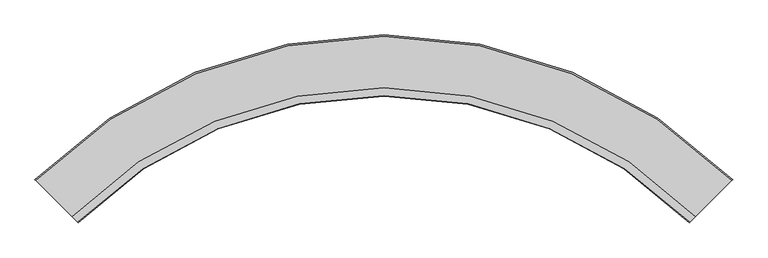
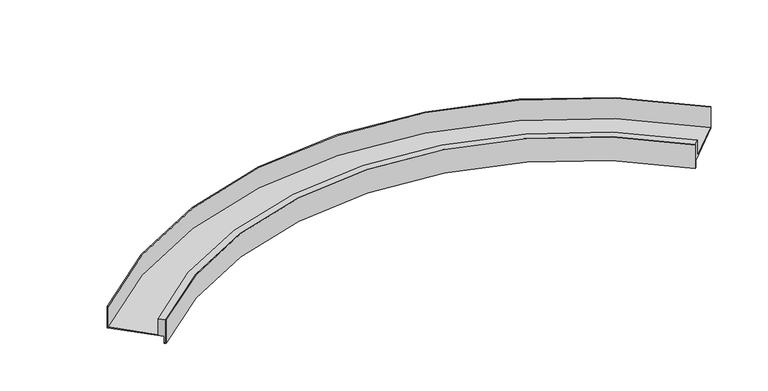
"""IFC4 building model written with IfcOpenShell, lengths in millimetres: light fixture geometry, Lighting-Cove-Lumenwerx-Evoq-Ramp-FC-Arc_Segment-Ceiling : EVOQCURPAT-FC-ARC."""

from ifc_helpers import new_model, si_unit, frame, origin, place, context, project, spatial, polyline, circle_curve, source, transform, mapped, element, save
from ifc_brep_helpers import plane_surface, cylinder_surface, revolved_surface, advanced_brep


def light_fixture_e91f5ca2(model_context):
    return source(origin(), model_context, "Body", "AdvancedBrep", [
        advanced_brep(
        [(-604.4834901, -42.0949506, -15.08125), (-606.7304899, -39.8479509, -15.08125), (-606.7304899, -39.8479509, -15.875), (-603.9222241, -42.6562166, -15.875), (-603.9222241, -42.6562166, 40.48125), (-604.4834901, -42.0949506, 40.48125), (604.4834901, -42.0949506, -15.08125), (604.4834901, -42.0949506, 40.48125), (603.9222241, -42.6562166, 40.48125), (603.9222241, -42.6562166, -15.875), (606.7304899, -39.8479509, -15.875), (606.7304899, -39.8479509, -15.08125)],
        [
            (0, 1),
            (1, 2),
            (2, 3),
            (3, 4),
            (4, 5),
            (5, 0),
            (6, 7),
            (7, 8),
            (8, 9),
            (9, 10),
            (10, 11),
            (11, 6),
            (8, 4, circle_curve(frame((0.0, -646.5784407, 40.48125), z_axis=(0.0, 0.0, 1.0), x_axis=(-0.7071067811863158, 0.7071067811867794, 0.0)), 854.075)),
            (3, 9, circle_curve(frame((0.0, -646.5784407, -15.875), z_axis=(0.0, 0.0, -1.0), x_axis=(-0.7071067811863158, 0.7071067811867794, 0.0)), 854.075)),
            (7, 5, circle_curve(frame((0.0, -646.5784407, 40.48125), z_axis=(0.0, 0.0, 1.0), x_axis=(-0.7071067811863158, 0.7071067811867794, 0.0)), 854.86875)),
            (6, 0, circle_curve(frame((0.0, -646.5784407, -15.08125), z_axis=(0.0, 0.0, 1.0), x_axis=(-0.7071067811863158, 0.7071067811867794, 0.0)), 854.86875)),
            (11, 1, circle_curve(frame((0.0, -646.5784407, -15.08125), z_axis=(0.0, 0.0, 1.0), x_axis=(-0.7071067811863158, 0.7071067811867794, 0.0)), 858.0464875)),
            (10, 2, circle_curve(frame((0.0, -646.5784407, -15.875), z_axis=(0.0, 0.0, 1.0), x_axis=(-0.7071067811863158, 0.7071067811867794, 0.0)), 858.0464875)),
        ],
        [
            plane_surface(frame((-646.5784407, 0.0, 0.0), z_axis=(-0.7071067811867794, -0.7071067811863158, 0.0), x_axis=(0.0, 0.0, 1.0))),
            plane_surface(frame((646.5784407, 0.0, 0.0), z_axis=(0.7071067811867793, -0.7071067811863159, 0.0), x_axis=(0.0, 0.0, 1.0))),
            revolved_surface(polyline([(-603.9222241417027, -42.6562165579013, -15.875), (-603.9222241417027, -42.6562165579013, 40.48125)]), (0.0, -646.5784407, 0.0), (0.0, 0.0, -1.0)),
            plane_surface(frame((0.0, -646.5784407, 40.48125), z_axis=(0.0, 0.0, 1.0), x_axis=(-0.7071067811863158, 0.7071067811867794, 0.0))),
            cylinder_surface(frame((0.0, -646.5784407, 0.0), z_axis=(0.0, 0.0, -1.0), x_axis=(-0.7071067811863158, 0.7071067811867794, 0.0)), 854.86875),
            plane_surface(frame((0.0, -646.5784407, -15.08125), z_axis=(0.0, 0.0, 1.0), x_axis=(-0.7071067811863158, 0.7071067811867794, 0.0))),
            cylinder_surface(frame((0.0, -646.5784407, 0.0), z_axis=(0.0, 0.0, -1.0), x_axis=(-0.7071067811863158, 0.7071067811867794, 0.0)), 858.0464875),
            plane_surface(frame((0.0, -646.5784407, -15.875), z_axis=(0.0, 0.0, -1.0), x_axis=(-0.7071067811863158, 0.7071067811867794, 0.0))),
        ],
        [
            (0, [[1, 2, 3, 4, 5, 6]]),
            (1, [[7, 8, 9, 10, 11, 12]]),
            (2, [[13, -4, 14, -9]]),
            (3, [[15, -5, -13, -8]]),
            (4, [[16, -6, -15, -7]]),
            (5, [[17, -1, -16, -12]]),
            (6, [[18, -2, -17, -11]]),
            (7, [[-14, -3, -18, -10]]),
        ],
    ),
        advanced_brep(
        [(-604.4834901, -42.0949506, 40.48125), (-615.7088103, -30.8696304, 40.48125), (-615.7088103, -30.8696304, 2.38125), (-687.5508593, 40.9724186, 2.38125), (-687.5508593, 40.9724186, 51.59375), (-689.2346573, 42.6562166, 51.59375), (-689.2346573, 42.6562166, 0.0), (-606.7285542, -39.8498865, 0.0), (-606.7285542, -39.8498865, -15.08125), (-604.4834901, -42.0949506, -15.08125), (604.4834901, -42.0949506, 40.48125), (604.4834901, -42.0949506, -15.08125), (606.7285542, -39.8498865, -15.08125), (606.7285542, -39.8498865, 0.0), (689.2346573, 42.6562166, 0.0), (689.2346573, 42.6562166, 51.59375), (687.5508593, 40.9724186, 51.59375), (687.5508593, 40.9724186, 2.38125), (615.7088103, -30.8696304, 2.38125), (615.7088103, -30.8696304, 40.48125)],
        [
            (0, 1),
            (1, 2),
            (2, 3),
            (3, 4),
            (4, 5),
            (5, 6),
            (6, 7),
            (7, 8),
            (8, 9),
            (9, 0),
            (10, 11),
            (11, 12),
            (12, 13),
            (13, 14),
            (14, 15),
            (15, 16),
            (16, 17),
            (17, 18),
            (18, 19),
            (19, 10),
            (10, 0, circle_curve(frame((0.0, -646.5784407, 40.48125), z_axis=(0.0, 0.0, 1.0), x_axis=(-0.7071067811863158, 0.7071067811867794, 0.0)), 854.86875)),
            (9, 11, circle_curve(frame((0.0, -646.5784407, -15.08125), z_axis=(0.0, 0.0, -1.0), x_axis=(-0.7071067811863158, 0.7071067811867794, 0.0)), 854.86875)),
            (19, 1, circle_curve(frame((0.0, -646.5784407, 40.48125), z_axis=(0.0, 0.0, 1.0), x_axis=(-0.7071067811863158, 0.7071067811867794, 0.0)), 870.74375)),
            (18, 2, circle_curve(frame((0.0, -646.5784407, 2.38125), z_axis=(0.0, 0.0, 1.0), x_axis=(-0.7071067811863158, 0.7071067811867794, 0.0)), 870.74375)),
            (17, 3, circle_curve(frame((0.0, -646.5784407, 2.38125), z_axis=(0.0, 0.0, 1.0), x_axis=(-0.7071067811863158, 0.7071067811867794, 0.0)), 972.34375)),
            (16, 4, circle_curve(frame((0.0, -646.5784407, 51.59375), z_axis=(0.0, 0.0, 1.0), x_axis=(-0.7071067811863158, 0.7071067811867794, 0.0)), 972.34375)),
            (15, 5, circle_curve(frame((0.0, -646.5784407, 51.59375), z_axis=(0.0, 0.0, 1.0), x_axis=(-0.7071067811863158, 0.7071067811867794, 0.0)), 974.725)),
            (14, 6, circle_curve(frame((0.0, -646.5784407, 0.0), z_axis=(0.0, 0.0, 1.0), x_axis=(-0.7071067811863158, 0.7071067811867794, 0.0)), 974.725)),
            (13, 7, circle_curve(frame((0.0, -646.5784407, 0.0), z_axis=(0.0, 0.0, 1.0), x_axis=(-0.7071067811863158, 0.7071067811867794, 0.0)), 858.04375)),
            (12, 8, circle_curve(frame((0.0, -646.5784407, -15.08125), z_axis=(0.0, 0.0, 1.0), x_axis=(-0.7071067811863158, 0.7071067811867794, 0.0)), 858.04375)),
        ],
        [
            plane_surface(frame((-646.5784407, 0.0, 0.0), z_axis=(-0.7071067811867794, -0.7071067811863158, 0.0), x_axis=(0.0, 0.0, 1.0))),
            plane_surface(frame((646.5784407, 0.0, 0.0), z_axis=(0.7071067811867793, -0.7071067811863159, 0.0), x_axis=(0.0, 0.0, 1.0))),
            revolved_surface(polyline([(-604.4834901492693, -42.094950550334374, -15.08125), (-604.4834901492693, -42.094950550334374, 40.48125)]), (0.0, -646.5784407, 0.0), (0.0, 0.0, -1.0)),
            plane_surface(frame((0.0, -646.5784407, 40.48125), z_axis=(0.0, 0.0, 1.0), x_axis=(-0.7071067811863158, 0.7071067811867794, 0.0))),
            cylinder_surface(frame((0.0, -646.5784407, 0.0), z_axis=(0.0, 0.0, -1.0), x_axis=(-0.7071067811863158, 0.7071067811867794, 0.0)), 870.74375),
            plane_surface(frame((0.0, -646.5784407, 2.38125), z_axis=(0.0, 0.0, 1.0), x_axis=(-0.7071067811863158, 0.7071067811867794, 0.0))),
            revolved_surface(polyline([(-687.5508592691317, 40.97241856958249, 2.38125), (-687.5508592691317, 40.97241856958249, 51.59375)]), (0.0, -646.5784407, 0.0), (0.0, 0.0, -1.0)),
            plane_surface(frame((0.0, -646.5784407, 51.59375), z_axis=(0.0, 0.0, 1.0), x_axis=(-0.7071067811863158, 0.7071067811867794, 0.0))),
            cylinder_surface(frame((0.0, -646.5784407, 0.0), z_axis=(0.0, 0.0, -1.0), x_axis=(-0.7071067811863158, 0.7071067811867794, 0.0)), 974.725),
            plane_surface(frame((0.0, -646.5784407, 0.0), z_axis=(0.0, 0.0, -1.0), x_axis=(-0.7071067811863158, 0.7071067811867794, 0.0))),
            cylinder_surface(frame((0.0, -646.5784407, 0.0), z_axis=(0.0, 0.0, -1.0), x_axis=(-0.7071067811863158, 0.7071067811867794, 0.0)), 858.04375),
            plane_surface(frame((0.0, -646.5784407, -15.08125), z_axis=(0.0, 0.0, -1.0), x_axis=(-0.7071067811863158, 0.7071067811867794, 0.0))),
        ],
        [
            (0, [[1, 2, 3, 4, 5, 6, 7, 8, 9, 10]]),
            (1, [[11, 12, 13, 14, 15, 16, 17, 18, 19, 20]]),
            (2, [[21, -10, 22, -11]]),
            (3, [[23, -1, -21, -20]]),
            (4, [[24, -2, -23, -19]]),
            (5, [[25, -3, -24, -18]]),
            (6, [[26, -4, -25, -17]]),
            (7, [[27, -5, -26, -16]]),
            (8, [[28, -6, -27, -15]]),
            (9, [[29, -7, -28, -14]]),
            (10, [[30, -8, -29, -13]]),
            (11, [[-22, -9, -30, -12]]),
        ],
    ),
    ])


if __name__ == "__main__":
    model = new_model("IFC4")
    model_context = context("Model", 3, world=origin())
    ifc_project = project(units=[si_unit("LENGTHUNIT", "METRE", prefix="MILLI")], contexts=[model_context])
    site = spatial("IfcSite", under=ifc_project)
    building = spatial("IfcBuilding", under=site)
    placement = place(None, origin())
    light_fixture_shape = light_fixture_e91f5ca2(model_context)
    element("IfcLightFixture", 1, ObjectType="Lighting-Cove-Lumenwerx-Evoq-Ramp-FC-Arc_Segment-Ceiling : EVOQCURPAT-FC-ARC", at=placement, inside=building, context=model_context, shape_type="MappedRepresentation", body=[
        mapped(light_fixture_shape, transform((0.0, 0.0, 0.0), x_axis=(1.0, 0.0, 0.0), y_axis=(0.0, 1.0, 0.0), z_axis=(0.0, 0.0, 1.0))),
    ])
    save(model, "model.ifc")
